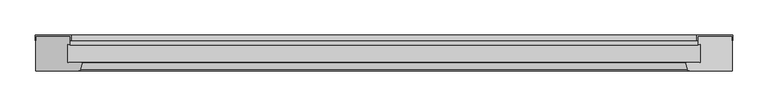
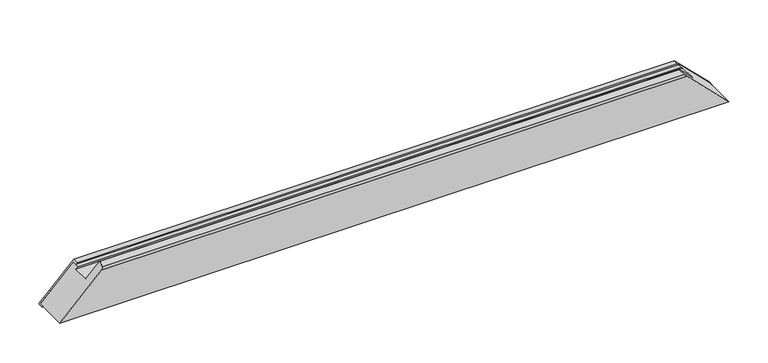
"""IFC4 building model written with IfcOpenShell, lengths in millimetres: proxy geometry, Weiku - Montante - Caixilho 02.2.01.005 : Weiku - Montante - Caixilho 02.2.01.005."""

import ifcopenshell
import ifcopenshell.guid

model = None  # the IFC model being written
_history = None  # IfcOwnerHistory: only IFC2X3 demands one
_inside = {}  # id of a spatial element -> (the spatial element, [elements in it])
_under = {}  # id of a project, library or spatial element -> (it, [spatial elements below it])
_declared = {}  # id of a project -> (the project, [libraries it declares])
_typed = {}  # id of a type object -> (the type object, [elements of that type])
_made_of = {}  # id of a material, layer set ... -> (it, [elements and type objects made of it])


def new_model(schema):
    """Start an empty IFC model of exactly this schema.

    Asked for "IFC4X3", IfcOpenShell would pick the latest addendum, in which some entities
    have other attributes; the version numbers below select the first issue.
    IFC2X3 requires an IfcOwnerHistory on every rooted entity: one is made here for all.
    """
    global model, _history
    if schema == "IFC4X3":
        model = ifcopenshell.file(schema_version=(4, 3, 0, 0))
    else:
        model = ifcopenshell.file(schema=schema)
    _inside.clear()
    _under.clear()
    _declared.clear()
    _typed.clear()
    _made_of.clear()
    _history = None
    if model.schema == "IFC2X3":
        org = make("IfcOrganization", Name="unknown")
        user = make(
            "IfcPersonAndOrganization",
            ThePerson=make("IfcPerson", FamilyName="unknown"),
            TheOrganization=org,
        )
        app = make(
            "IfcApplication",
            ApplicationDeveloper=org,
            Version="unknown",
            ApplicationFullName="unknown",
            ApplicationIdentifier="unknown",
        )
        _history = make(
            "IfcOwnerHistory",
            OwningUser=user,
            OwningApplication=app,
            ChangeAction="ADDED",
            CreationDate=0,
        )
    return model


def make(cls, **values):
    """One entity of the class cls with the attributes given. An attribute that is None is left unset."""
    return model.create_entity(
        cls, **{name: value for name, value in values.items() if value is not None}
    )


def rooted(cls, **values):
    """An entity with a GlobalId (a new one), such as an element, a storey or a relation."""
    return make(cls, GlobalId=ifcopenshell.guid.new(), OwnerHistory=_history, **values)


def si_unit(unit_type, name, prefix=None):
    """IfcSIUnit, for example si_unit("LENGTHUNIT", "METRE", prefix="MILLI")."""
    return make("IfcSIUnit", UnitType=unit_type, Prefix=prefix, Name=name)


def assignment(units):
    """IfcUnitAssignment: the units of a project."""
    return None if units is None else make("IfcUnitAssignment", Units=units)


def point(xyz):
    """IfcCartesianPoint."""
    return None if xyz is None else make("IfcCartesianPoint", Coordinates=xyz)


def direction(xyz):
    """IfcDirection."""
    return None if xyz is None else make("IfcDirection", DirectionRatios=xyz)


def frame(location, z_axis=None, x_axis=None):
    """IfcAxis2Placement3D, a coordinate frame: its origin and axes. An axis left out is left unset."""
    return make(
        "IfcAxis2Placement3D",
        Location=point(location),
        Axis=direction(z_axis),
        RefDirection=direction(x_axis),
    )


def origin():
    """The frame at (0, 0, 0) with its axes left unset."""
    return frame((0.0, 0.0, 0.0))


def place(relative_to, where):
    """IfcLocalPlacement: puts the frame where relative to a parent placement (None: the world)."""
    return make(
        "IfcLocalPlacement", PlacementRelTo=relative_to, RelativePlacement=where
    )


def context(
    kind, dimensions, precision=None, world=None, true_north=None, identifier=None
):
    """IfcGeometricRepresentationContext, for example the 3D "Model" context."""
    return make(
        "IfcGeometricRepresentationContext",
        ContextIdentifier=identifier,
        ContextType=kind,
        CoordinateSpaceDimension=dimensions,
        Precision=precision,
        WorldCoordinateSystem=world,
        TrueNorth=true_north,
    )


def project(units=None, contexts=None):
    """IfcProject with its units and contexts."""
    return rooted(
        "IfcProject",
        Name="project",
        RepresentationContexts=contexts,
        UnitsInContext=assignment(units),
    )


def spatial(cls, under=None, at=None, **own):
    """A site, building, storey or space (cls), placed at a placement, below another one or the project."""
    s = rooted(cls, ObjectPlacement=at, **own)
    if under is not None:
        _under.setdefault(under.id(), (under, []))[1].append(s)
    return s


def ellipse_curve(where, semi_axis1, semi_axis2):
    """IfcEllipse in the frame where."""
    return make(
        "IfcEllipse", Position=where, SemiAxis1=semi_axis1, SemiAxis2=semi_axis2
    )


def faces_of(points, faces, orient=None, outer=None):
    """IfcFace entities. A face is a list of loops; a loop is a list of indices into points, from 0.

    orient and outer hold one flag for each loop. By default every Orientation is true, the
    first loop of a face is its IfcFaceOuterBound and the others are IfcFaceBound.
    """
    made = []
    for i, loops in enumerate(faces):
        bounds = []
        for j, loop in enumerate(loops):
            is_outer = j == 0 if outer is None else outer[i][j]
            bounds.append(
                make(
                    "IfcFaceOuterBound" if is_outer else "IfcFaceBound",
                    Bound=make("IfcPolyLoop", Polygon=[points[k] for k in loop]),
                    Orientation=True if orient is None else orient[i][j],
                )
            )
        made.append(make("IfcFace", Bounds=bounds))
    return made


def faceted_brep(points, faces, orient=None, outer=None, voids=None):
    """IfcFacetedBrep: a solid bounded by flat faces; with voids (closed shells), ...WithVoids."""
    shared = [point(p) for p in points]
    hull = make("IfcClosedShell", CfsFaces=faces_of(shared, faces, orient, outer))
    if voids is None:
        return make("IfcFacetedBrep", Outer=hull)
    return make(
        "IfcFacetedBrepWithVoids",
        Outer=hull,
        Voids=[
            make(cls, CfsFaces=faces_of(shared, fs, o, b)) for cls, fs, o, b in voids
        ],
    )


def shape(context_of_items, identifier, shape_type, items):
    """IfcShapeRepresentation: the items that make up one representation, for example the "Body"."""
    return make(
        "IfcShapeRepresentation",
        ContextOfItems=context_of_items,
        RepresentationIdentifier=identifier,
        RepresentationType=shape_type,
        Items=items,
    )


def source(mapping_origin, context_of_items, identifier, shape_type, items):
    """IfcRepresentationMap: a shape defined once, which mapped items show again and again."""
    return make(
        "IfcRepresentationMap",
        MappingOrigin=mapping_origin,
        MappedRepresentation=shape(context_of_items, identifier, shape_type, items),
    )


def transform(
    local_origin,
    x_axis=None,
    y_axis=None,
    z_axis=None,
    scale=None,
    scale2=None,
    scale3=None,
    uniform=True,
):
    """IfcCartesianTransformationOperator3D, or its non-uniform kind. x_axis, y_axis, z_axis: its Axis1, 2, 3."""
    if uniform:
        return make(
            "IfcCartesianTransformationOperator3D",
            Axis1=direction(x_axis),
            Axis2=direction(y_axis),
            LocalOrigin=point(local_origin),
            Scale=scale,
            Axis3=direction(z_axis),
        )
    return make(
        "IfcCartesianTransformationOperator3DnonUniform",
        Axis1=direction(x_axis),
        Axis2=direction(y_axis),
        LocalOrigin=point(local_origin),
        Scale=scale,
        Axis3=direction(z_axis),
        Scale2=scale2,
        Scale3=scale3,
    )


def mapped(mapping_source, mapping_target):
    """IfcMappedItem: shows the shape of a source again, moved by a transform."""
    return make(
        "IfcMappedItem", MappingSource=mapping_source, MappingTarget=mapping_target
    )


def made_of(thing, what):
    """Note that an element or type object is made of a material, layer set ...; save() writes the relation."""
    if what is not None:
        _made_of.setdefault(what.id(), (what, []))[1].append(thing)
    return thing


def element(
    cls,
    number,
    at=None,
    inside=None,
    cuts=None,
    type_object=None,
    material=None,
    context=None,
    identifier="Body",
    shape_type=None,
    held_by="IfcProductDefinitionShape",
    body=None,
    shapes=None,
    **own,
):
    """One element of the class cls, such as IfcWall. Its Tag is "e" and its number.

    at: its placement. inside: the storey or other place that contains it. cuts: it is an
    opening in that element (IfcRelVoidsElement). A single representation is given by context,
    identifier, shape_type and body (its items); several are given by shapes. held_by: the class
    of the entity that holds the representations. save() writes the other relations.
    """
    e = rooted(cls, Tag="e%d" % number, ObjectPlacement=at, **own)
    if body is not None:
        shapes = [shape(context, identifier, shape_type, body)]
    if shapes is not None:
        e.Representation = make(held_by, Representations=shapes)
    if inside is not None:
        _inside.setdefault(inside.id(), (inside, []))[1].append(e)
    if cuts is not None:
        rooted(
            "IfcRelVoidsElement", RelatingBuildingElement=cuts, RelatedOpeningElement=e
        )
    if type_object is not None:
        _typed.setdefault(type_object.id(), (type_object, []))[1].append(e)
    return made_of(e, material)


def aggregate(whole, parts):
    """IfcRelAggregates: a whole, such as a stair, and the parts it consists of."""
    return rooted("IfcRelAggregates", RelatingObject=whole, RelatedObjects=parts)


def save(model, path):
    """Write the relations noted so far, then the file.

    IfcRelAggregates (storeys below a building ...), IfcRelContainedInSpatialStructure (elements
    in a storey), IfcRelDefinesByType, IfcRelAssociatesMaterial and IfcRelDeclares: one each for
    every whole, place, type object, material and project.
    """
    for whole, parts in _under.values():
        aggregate(whole, parts)
    for where, things in _inside.values():
        rooted(
            "IfcRelContainedInSpatialStructure",
            RelatedElements=things,
            RelatingStructure=where,
        )
    for kind, things in _typed.values():
        rooted("IfcRelDefinesByType", RelatedObjects=things, RelatingType=kind)
    for what, things in _made_of.values():
        rooted("IfcRelAssociatesMaterial", RelatedObjects=things, RelatingMaterial=what)
    for by, libraries in _declared.values():
        rooted("IfcRelDeclares", RelatingContext=by, RelatedDefinitions=libraries)
    model.write(path)


def plane_surface(at):
    """IfcPlane: the flat surface through the origin of the frame at, square to its z axis."""
    return make("IfcPlane", Position=at)


def cylinder_surface(at, radius):
    """IfcCylindricalSurface: all points at the distance radius from the z axis of the frame at."""
    return make("IfcCylindricalSurface", Position=at, Radius=radius)


def advanced_brep(points, edges, surfaces, faces):
    """IfcAdvancedBrep: a solid bounded by faces that lie on surfaces and meet in shared edges.

    An edge is (start, end): straight between two places in points (the first is 0);
    or (start, end, curve); or (start, end, curve, False) where it runs against its curve.
    A face is (place in surfaces, loops), or (place, loops, False) where it looks against
    its surface's normal. A loop lists edges by number (the first is 1), with a minus sign
    where the edge is run from its end to its start. The first loop is the outer one.
    """
    corners = [point(p) for p in points]
    vertices = [make("IfcVertexPoint", VertexGeometry=c) for c in corners]
    made = []
    for start, end, *more in edges:
        made.append(
            make(
                "IfcEdgeCurve",
                EdgeStart=vertices[start],
                EdgeEnd=vertices[end],
                EdgeGeometry=more[0] if more else make("IfcPolyline", Points=[corners[start], corners[end]]),
                SameSense=more[1] if len(more) > 1 else True,
            )
        )
    hull = []
    for where, loops, *sense in faces:
        bounds = []
        for j, loop in enumerate(loops):
            ring = [make("IfcOrientedEdge", EdgeElement=made[abs(k) - 1], Orientation=k > 0) for k in loop]
            bounds.append(
                make(
                    "IfcFaceOuterBound" if j == 0 else "IfcFaceBound",
                    Bound=make("IfcEdgeLoop", EdgeList=ring),
                    Orientation=True,
                )
            )
        hull.append(make("IfcAdvancedFace", Bounds=bounds, FaceSurface=surfaces[where], SameSense=sense[0] if sense else True))
    return make("IfcAdvancedBrep", Outer=make("IfcClosedShell", CfsFaces=hull))


def generic_models_b03af5b4(model_context):
    return source(origin(), model_context, "Body", "SolidModel", [
        faceted_brep([(-497.5, 43.5137905, 0.0), (-497.5, 50.0, 0.0), (-448.5, 50.0, 49.0), (-448.5, 43.5137905, 49.0), (-446.5, 43.5137905, 51.0), (-446.5, 52.0, 51.0), (-498.5, 52.0, -1.0), (-498.5, 43.5137905, -1.0), (497.5, 50.0, 0.0), (497.5, 43.5137905, 0.0), (498.5, 43.5137905, -1.0), (498.5, 52.0, -1.0), (446.5, 52.0, 51.0), (446.5, 43.5137905, 51.0), (448.5, 43.5137905, 49.0), (448.5, 50.0, 49.0)], [[[0, 1, 2, 3, 4, 5, 6, 7]], [[8, 9, 10, 11, 12, 13, 14, 15]], [[1, 0, 9, 8]], [[2, 1, 8, 15]], [[3, 2, 15, 14]], [[4, 3, 14, 13]], [[5, 4, 13, 12]], [[6, 5, 12, 11]], [[7, 6, 11, 10]], [[0, 7, 10, 9]]]),
        advanced_brep(
        [(-451.5, 12.5, 46.0), (-431.3909676, 12.5, 66.1090324), (431.3909676, 12.5, 66.1090324), (451.5, 12.5, 46.0), (-451.5, 37.8314286, 46.0), (451.5, 37.8314286, 46.0), (-448.5, 37.027581, 49.0), (448.5, 37.027581, 49.0), (-448.5, 50.0, 49.0), (448.5, 50.0, 49.0), (497.5, 50.0, 0.0), (-497.5, 50.0, 0.0), (497.5, 0.0, 0.0), (-497.5, 0.0, 0.0), (435.9997332, 0.0, 61.5002668), (-435.9997332, 0.0, 61.5002668), (-430.618227, 11.4929448, 66.881773), (-433.1019557, 2.2235429, 64.3980443), (433.1019557, 2.2235429, 64.3980443), (430.618227, 11.4929448, 66.881773)],
        [
            (0, 1),
            (1, 2),
            (2, 3),
            (3, 0),
            (4, 0),
            (3, 5),
            (5, 4),
            (6, 4),
            (5, 7),
            (7, 6),
            (8, 6),
            (7, 9),
            (9, 8),
            (10, 11),
            (11, 8),
            (9, 10),
            (10, 12),
            (12, 13),
            (13, 11),
            (12, 14),
            (14, 15),
            (15, 13),
            (16, 17),
            (17, 18),
            (18, 19),
            (19, 16),
            (15, 17, ellipse_curve(frame((-435.9997332, 3.0, 61.5002668), z_axis=(-0.707106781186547, 0.0, 0.707106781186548), x_axis=(-0.7071067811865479, 0.0, -0.707106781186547)), 4.2426407, 3.0)),
            (16, 1, ellipse_curve(frame((-431.3909676, 11.7, 66.1090324), z_axis=(-0.707106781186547, 0.0, 0.707106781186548), x_axis=(-0.7071067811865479, 0.0, -0.707106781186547)), 1.1313708, 0.8)),
            (2, 19, ellipse_curve(frame((431.3909676, 11.7, 66.1090324), z_axis=(0.707106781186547, 0.0, 0.7071067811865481), x_axis=(-0.7071067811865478, 0.0, 0.707106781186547)), 1.1313708, 0.8)),
            (18, 14, ellipse_curve(frame((435.9997332, 3.0, 61.5002668), z_axis=(0.707106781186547, 0.0, 0.7071067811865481), x_axis=(-0.7071067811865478, 0.0, 0.707106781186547)), 4.2426407, 3.0)),
        ],
        [
            plane_surface(frame((-497.5, 12.5, 66.1090324), z_axis=(0.0, 1.0, 0.0), x_axis=(1.0, 0.0, 0.0))),
            plane_surface(frame((-497.5, 12.5, 46.0), z_axis=(0.0, 0.0, 1.0), x_axis=(1.0, 0.0, 0.0))),
            plane_surface(frame((-497.5, 37.8314286, 46.0), z_axis=(0.0, -0.9659258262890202, -0.2588190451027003), x_axis=(1.0, 0.0, 0.0))),
            plane_surface(frame((-497.5, 37.027581, 49.0), z_axis=(0.0, 0.0, 1.0), x_axis=(1.0, 0.0, 0.0))),
            plane_surface(frame((-497.5, 50.0, 49.0), z_axis=(0.0, 1.0, 0.0), x_axis=(1.0, 0.0, 0.0))),
            plane_surface(frame((-497.5, 50.0, 0.0), z_axis=(0.0, 0.0, -1.0), x_axis=(1.0, 0.0, 0.0))),
            plane_surface(frame((-497.5, 0.0, 0.0), z_axis=(0.0, -1.0, 0.0), x_axis=(1.0, 0.0, 0.0))),
            plane_surface(frame((-497.5, 2.2235429, 64.3980443), z_axis=(0.0, -0.2588190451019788, 0.9659258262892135), x_axis=(1.0, 0.0, 0.0))),
            plane_surface(frame((-567.5, -15.0, -70.0), z_axis=(-0.707106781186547, 0.0, 0.707106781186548), x_axis=(0.0, 1.0, 0.0))),
            plane_surface(frame((427.5, -15.0, 70.0), z_axis=(0.707106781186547, 0.0, 0.7071067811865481), x_axis=(0.0, 1.0, 0.0))),
            cylinder_surface(frame((-497.5, 11.7, 66.1090324), z_axis=(-1.0, 0.0, 0.0), x_axis=(0.0, 1.0, 0.0)), 0.8),
            cylinder_surface(frame((-497.5, 3.0, 61.5002668), z_axis=(-1.0, 0.0, 0.0), x_axis=(0.0, 1.0, 0.0)), 3.0),
        ],
        [
            (0, [[1, 2, 3, 4]]),
            (1, [[5, -4, 6, 7]]),
            (2, [[8, -7, 9, 10]]),
            (3, [[11, -10, 12, 13]]),
            (4, [[14, 15, -13, 16]]),
            (5, [[-14, 17, 18, 19]]),
            (6, [[-18, 20, 21, 22]]),
            (7, [[23, 24, 25, 26]]),
            (8, [[-1, -5, -8, -11, -15, -19, -22, 27, -23, 28]]),
            (9, [[-3, 29, -25, 30, -20, -17, -16, -12, -9, -6]]),
            (10, [[-28, -26, -29, -2]]),
            (11, [[-27, -21, -30, -24]]),
        ],
    ),
    ])


if __name__ == "__main__":
    model = new_model("IFC4")
    model_context = context("Model", 3, world=origin())
    ifc_project = project(units=[si_unit("LENGTHUNIT", "METRE", prefix="MILLI")], contexts=[model_context])
    site = spatial("IfcSite", under=ifc_project)
    building = spatial("IfcBuilding", under=site)
    placement = place(None, origin())
    generic_models_shape = generic_models_b03af5b4(model_context)
    element("IfcBuildingElementProxy", 1, Name="Weiku - Montante - Caixilho 02.2.01.005 : Weiku - Montante - Caixilho 02.2.01.005", ObjectType="Weiku - Montante - Caixilho 02.2.01.005 : Weiku - Montante - Caixilho 02.2.01.005", at=placement, inside=building, context=model_context, shape_type="MappedRepresentation", body=[
        mapped(generic_models_shape, transform((0.0, 0.0, 0.0), x_axis=(1.0, 0.0, 0.0), y_axis=(0.0, 1.0, 0.0), z_axis=(0.0, 0.0, 1.0))),
    ])
    save(model, "model.ifc")
